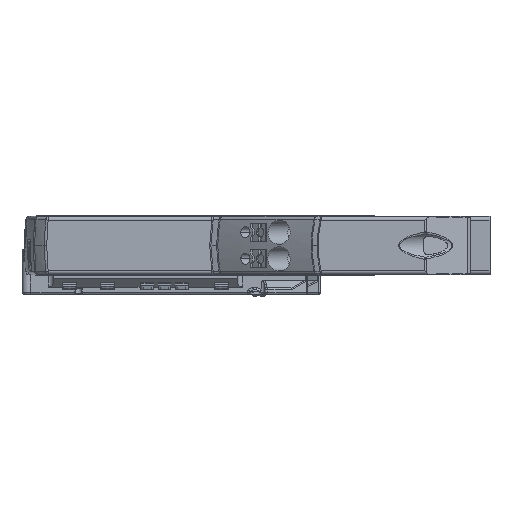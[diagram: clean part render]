
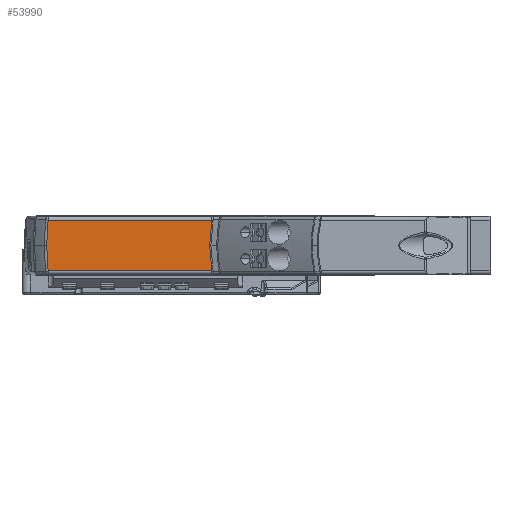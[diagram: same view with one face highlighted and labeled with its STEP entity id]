
A CAD part, left-side view. The second image highlights one B-rep face of the part: STEP entity #53990.
In plain terms, the highlighted planar face has unit normal (-1, 0, 0).
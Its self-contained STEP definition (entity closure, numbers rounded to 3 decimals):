
#16816=DIRECTION('',(0.,-1.,0.));
#16817=VECTOR('',#16816,34.465);
#16818=CARTESIAN_POINT('',(-26.,86.504,-5.35));
#16819=LINE('',#16818,#16817);
#16820=CARTESIAN_POINT('',(-26.,86.811,0.));
#16821=CARTESIAN_POINT('',(-26.,86.811,-0.596));
#16822=CARTESIAN_POINT('',(-26.,86.788,
-1.787));
#16823=CARTESIAN_POINT('',(-26.,86.686,
-3.572));
#16824=CARTESIAN_POINT('',(-26.,86.572,
-4.758));
#16825=CARTESIAN_POINT('',(-26.,86.504,-5.35));
#16827=CARTESIAN_POINT('',(-26.,86.504,5.35));
#16828=CARTESIAN_POINT('',(-26.,86.572,4.758));
#16829=CARTESIAN_POINT('',(-26.,86.686,3.572));
#16830=CARTESIAN_POINT('',(-26.,86.788,1.787));
#16831=CARTESIAN_POINT('',(-26.,86.811,0.596));
#16832=CARTESIAN_POINT('',(-26.,86.811,0.));
#16834=DIRECTION('',(0.,1.,0.));
#16835=VECTOR('',#16834,34.465);
#16836=CARTESIAN_POINT('',(-26.,52.039,
5.35));
#16837=LINE('',#16836,#16835);
#16838=CARTESIAN_POINT('',(-26.,52.039,
5.35));
#16839=CARTESIAN_POINT('',(-26.,52.1,
4.993));
#16840=CARTESIAN_POINT('',(-26.,52.211,
4.279));
#16841=CARTESIAN_POINT('',(-26.,52.339,
3.208));
#16842=CARTESIAN_POINT('',(-26.,52.431,
2.139));
#16843=CARTESIAN_POINT('',(-26.,52.486,
1.069));
#16844=CARTESIAN_POINT('',(-26.,52.498,
0.356));
#16845=CARTESIAN_POINT('',(-26.,52.498,0.));
#16847=CARTESIAN_POINT('',(-26.,52.498,0.));
#16848=CARTESIAN_POINT('',(-26.,52.498,
-0.357));
#16849=CARTESIAN_POINT('',(-26.,52.486,
-1.069));
#16850=CARTESIAN_POINT('',(-26.,52.431,
-2.139));
#16851=CARTESIAN_POINT('',(-26.,52.339,
-3.208));
#16852=CARTESIAN_POINT('',(-26.,52.211,
-4.279));
#16853=CARTESIAN_POINT('',(-26.,52.1,
-4.993));
#16854=CARTESIAN_POINT('',(-26.,52.039,
-5.35));
#16866=CARTESIAN_POINT('',(-26.,52.039,
-5.35));
#27099=CARTESIAN_POINT('',(-26.,52.039,
5.35));
#27100=CARTESIAN_POINT('',(-26.,86.504,5.35));
#27101=VERTEX_POINT('',#27099);
#27102=VERTEX_POINT('',#27100);
#27115=CARTESIAN_POINT('',(-26.,86.811,0.));
#27116=VERTEX_POINT('',#27115);
#27121=CARTESIAN_POINT('',(-26.,52.498,0.));
#27122=VERTEX_POINT('',#27121);
#27149=VERTEX_POINT('',#16866);
#27151=CARTESIAN_POINT('',(-26.,86.504,-5.35));
#27152=VERTEX_POINT('',#27151);
#53973=CARTESIAN_POINT('',(-26.,46.22,-7.99));
#53974=DIRECTION('',(1.,0.,0.));
#53975=DIRECTION('',(0.,1.,0.));
#53976=AXIS2_PLACEMENT_3D('',#53973,#53974,#53975);
#53977=PLANE('',#53976);
#53979=ORIENTED_EDGE('',*,*,#53978,.F.);
#53981=ORIENTED_EDGE('',*,*,#53980,.F.);
#53982=ORIENTED_EDGE('',*,*,#53939,.F.);
#53983=ORIENTED_EDGE('',*,*,#53964,.F.);
#53985=ORIENTED_EDGE('',*,*,#53984,.T.);
#53987=ORIENTED_EDGE('',*,*,#53986,.T.);
#53988=EDGE_LOOP('',(#53979,#53981,#53982,#53983,#53985,#53987));
#53989=FACE_OUTER_BOUND('',#53988,.F.);
#16826=B_SPLINE_CURVE_WITH_KNOTS('',3,(#16820,#16821,#16822,#16823,#16824,
#16825),.UNSPECIFIED.,.F.,.F.,(4,1,1,4),(0.,0.333,
0.667,1.),.UNSPECIFIED.);
#16833=B_SPLINE_CURVE_WITH_KNOTS('',3,(#16827,#16828,#16829,#16830,#16831,
#16832),.UNSPECIFIED.,.F.,.F.,(4,1,1,4),(0.,0.333,
0.667,1.),.UNSPECIFIED.);
#16846=B_SPLINE_CURVE_WITH_KNOTS('',3,(#16838,#16839,#16840,#16841,#16842,
#16843,#16844,#16845),.UNSPECIFIED.,.F.,.F.,(4,1,1,1,1,4),(0.,0.2,0.4,
0.6,0.8,1.),.UNSPECIFIED.);
#16855=B_SPLINE_CURVE_WITH_KNOTS('',3,(#16847,#16848,#16849,#16850,#16851,
#16852,#16853,#16854),.UNSPECIFIED.,.F.,.F.,(4,1,1,1,1,4),(0.,0.2,0.4,
0.6,0.8,1.),.UNSPECIFIED.);
#53939=EDGE_CURVE('',#27102,#27116,#16833,.T.);
#53964=EDGE_CURVE('',#27101,#27102,#16837,.T.);
#53978=EDGE_CURVE('',#27152,#27149,#16819,.T.);
#53980=EDGE_CURVE('',#27116,#27152,#16826,.T.);
#53984=EDGE_CURVE('',#27101,#27122,#16846,.T.);
#53986=EDGE_CURVE('',#27122,#27149,#16855,.T.);
#53990=ADVANCED_FACE('',(#53989),#53977,.F.);
